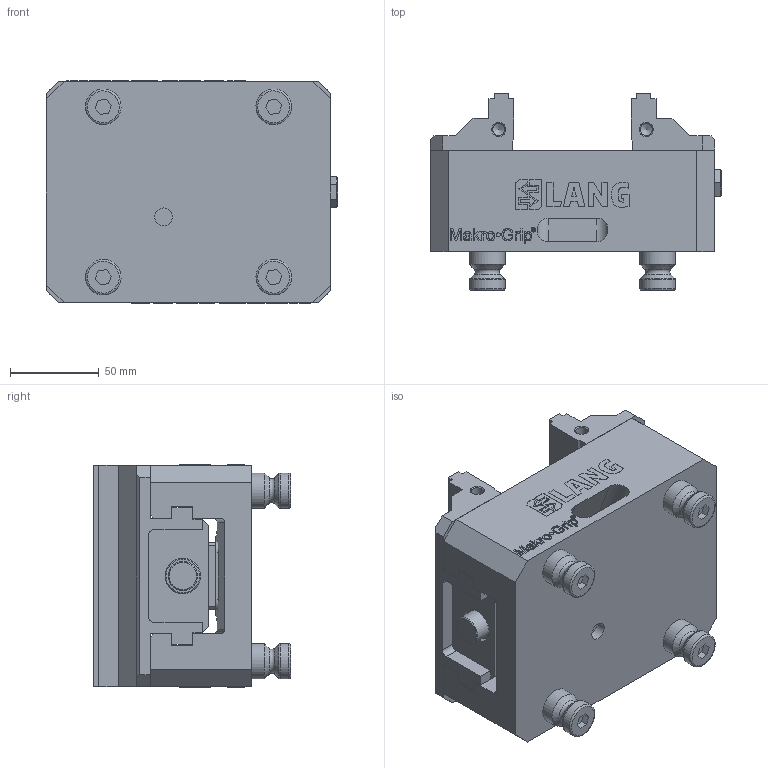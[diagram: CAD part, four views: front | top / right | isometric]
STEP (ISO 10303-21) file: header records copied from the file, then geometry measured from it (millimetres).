
FILE_DESCRIPTION (( 'STEP AP214' ), '1' );
FILE_NAME ('48155-125.STEP', '2020-02-07T13:08:18', ( '' ), ( '' ), 'SwSTEP 2.0', 'SolidWorks 2019', '' );
FILE_SCHEMA (( 'AUTOMOTIVE_DESIGN' ));
Length unit declared in the file: millimetre
Products named in the file (3): 48125-2520; 48155-125; Makro-Grip_48155-125
Assembly tree (3 placements, depth 2):
  48155-125
    Makro-Grip_48155-125
    48125-2520  x2
Bounding box: 164.04 x 111.01 x 125.24 mm (x, y, z)
Volume: 1083391 mm3; surface area: 184459.3 mm2
Topology: 50 solids, 50 shells, 910 faces, 2312 edges, 1519 vertices
Faces by surface type: plane 625, bspline 192, cylinder 54, cone 27, torus 12
Full cylindrical faces by diameter (mm): 6.8 x4, 8.5 x4, 10 x1, 16 x8, 16.5 x1, 20 x12
Entity records: 42620 total; most frequent: CARTESIAN_POINT 13835, ORIENTED_EDGE 4148, DIRECTION 3093, EDGE_CURVE 2074, VECTOR 1567, LINE 1567, VERTEX_POINT 1401, EDGE_LOOP 959
